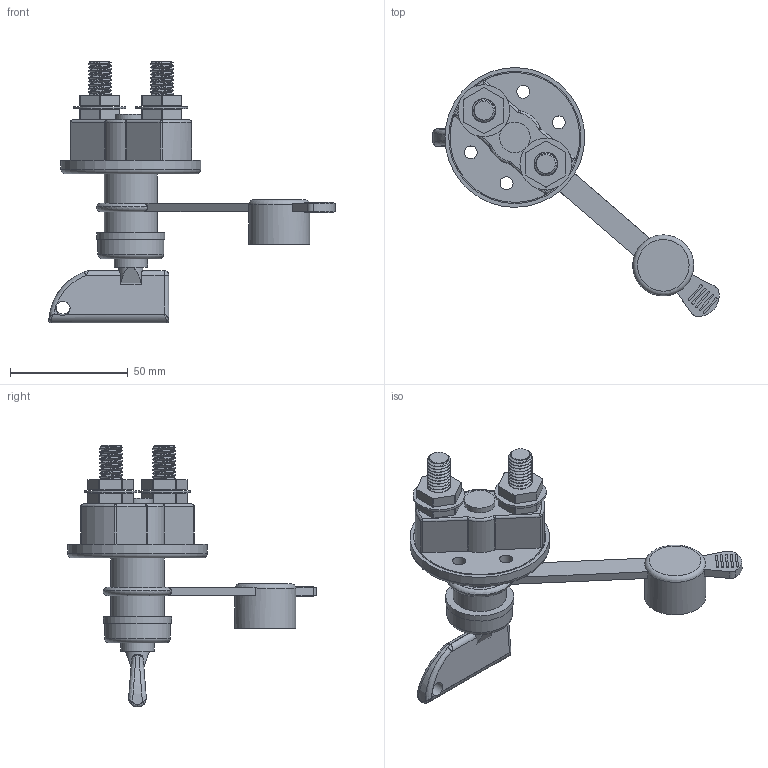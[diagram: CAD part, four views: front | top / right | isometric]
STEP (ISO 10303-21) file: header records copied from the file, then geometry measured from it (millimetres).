
FILE_DESCRIPTION(/* description */ (''),/* implementation_level */ '2;1');
FILE_NAME(/* name */ 'BD2-DC.stp',/* time_stamp */ '2024-04-12T10:43:58-07:00',/* author */ ('raniahc'),/* organization */ (''),/* preprocessor_version */ 'ST-DEVELOPER v19.2',/* originating_system */ 'Autodesk Inventor 2024',/* authorisation */ '');
FILE_SCHEMA (('AUTOMOTIVE_DESIGN { 1 0 10303 214 3 1 1 }'));
Products named in the file (8): BD2-DC; Bottom; Switch bottom; Switch; Rubber seal; 90128A286_Zinc-Plated Alloy Steel Socket Head Screw; 90592A024_Steel Hex Nut; Washer
Assembly tree (12 placements, depth 2):
  BD2-DC
    Bottom
    Switch bottom
    Switch
    Rubber seal
    90128A286_Zinc-Plated Alloy Steel Socket Head Screw  x2
    90592A024_Steel Hex Nut  x4
    Washer  x2
Bounding box: 121.49 x 105.55 x 111.1 mm (x, y, z)
Volume: 72220.5 mm3; surface area: 30223.6 mm2
Topology: 12 solids, 12 shells, 349 faces, 872 edges, 564 vertices
Faces by surface type: cylinder 181, plane 111, bspline 28, torus 17, cone 8, sphere 4
Full cylindrical faces by diameter (mm): 5.5 x4, 6 x1, 8.051 x30, 10 x38, 10.15 x1, 10.2 x1, 10.4 x2, 13 x1, 14.2 x1, 22 x2, 22.5 x2, 23.4 x1, 25.9 x1, 27.9 x1, 28.9 x1, 55 x1, 56.1 x1, 59.3 x1
Entity records: 11924 total; most frequent: CARTESIAN_POINT 6073, DIRECTION 1168, ORIENTED_EDGE 1158, EDGE_CURVE 579, AXIS2_PLACEMENT_3D 463, VERTEX_POINT 370, EDGE_LOOP 273, LINE 242
